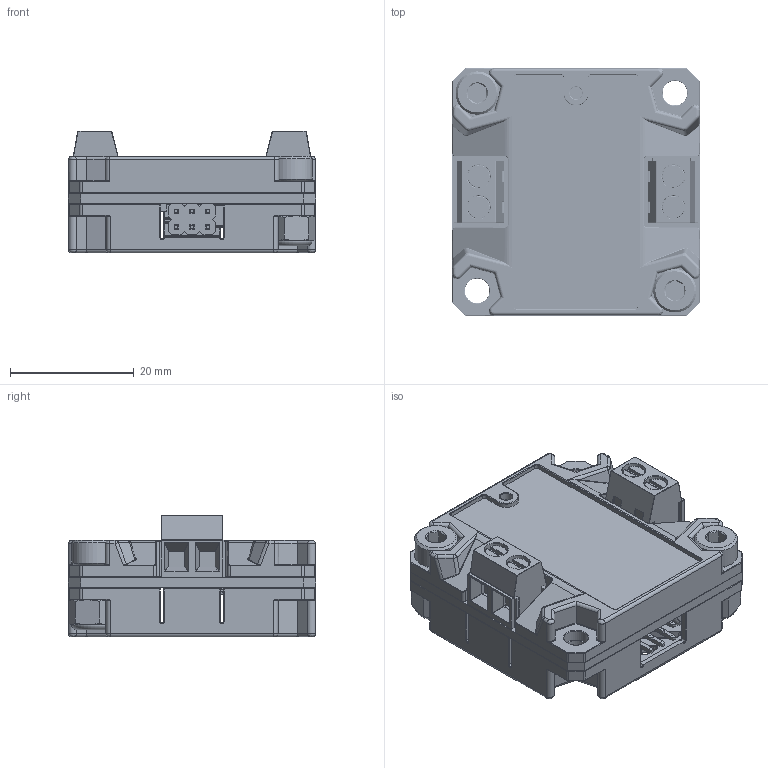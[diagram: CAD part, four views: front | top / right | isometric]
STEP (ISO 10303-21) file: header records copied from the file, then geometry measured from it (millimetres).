
FILE_DESCRIPTION(/* description */ (''),/* implementation_level */ '2;1');
FILE_NAME(/* name */ 'R:/Shared/Solidworks Files/(2) goBILDA/31 Electronics/3119 BECs/In Warehouse/STEP Files/3119-4444-0004 Assembly.step',/* time_stamp */ '2022-08-09T15:25:05-05:00',/* author */ (''),/* organization */ (''),/* preprocessor_version */ 'ST-DEVELOPER v19',/* originating_system */ 'Autodesk Translation Framework v11.7.0.108',/* authorisation */ '');
FILE_SCHEMA (('AUTOMOTIVE_DESIGN { 1 0 10303 214 3 1 1 }'));
Products named in the file (36): (Unsaved); 3119-4444-0004; Board; Packages; 0603LED; 0603C; 0603 CAP v1; 0603R; User Library-R0603 v1; 0805C; User Library-Chip Cap_MLCC_0805 (2012)_D v1; C+5MMÃTH-RA-B; User Library-Cap-EL(5x11-2)T Right Angle v2; L10X11; User Library-SMPI1004HW (1) v1; SMAF; SMFA v1; SOD-323; User Library-SOD323-1 v1; 2PIN-5MM-TH; 2pin screw terminal v2; 2PIN-5MM-TH (1); 2pin screw terminal v2 (1); Body; 2X03*90; 2x3x2.54mm Pin Head Right Angle v4; SOIC8; Model; DFN3X3; User Library-DFN_3x3_8L_EP2_P v1; lead frame; body_1; 3117-0032-0013; 3117-0032-0003; 2800-0004-0010; 2812-0004-0007
Assembly tree (51 placements, depth 6):
  (Unsaved)
    3119-4444-0004
      Board
      Packages
        0603LED
        0603C  x2
          0603 CAP v1
        0603R  x8
          User Library-R0603 v1
        0805C  x5
          User Library-Chip Cap_MLCC_0805 (2012)_D v1
        C+5MMÃTH-RA-B
          User Library-Cap-EL(5x11-2)T Right Angle v2
        L10X11
          User Library-SMPI1004HW (1) v1
        SMAF
          SMFA v1
        SOD-323  x2
          User Library-SOD323-1 v1
        2PIN-5MM-TH
          2pin screw terminal v2
            Body
        2PIN-5MM-TH (1)
          2pin screw terminal v2 (1)
            Body
        2X03*90
          2x3x2.54mm Pin Head Right Angle v4
        SOIC8
          Model
        DFN3X3
          User Library-DFN_3x3_8L_EP2_P v1
            lead frame
            body_1
    3117-0032-0013
    3117-0032-0003
    2800-0004-0010  x2
    2812-0004-0007  x2
Bounding box: 40 x 40.01 x 19.7 mm (x, y, z)
Volume: 11924.3 mm3; surface area: 18107.1 mm2
Topology: 75 solids, 76 shells, 4876 faces, 12051 edges, 7407 vertices
Faces by surface type: plane 2215, cylinder 1560, torus 468, bspline 451, sphere 120, cone 62
Full cylindrical faces by diameter (mm): 0.2 x101, 0.35 x32, 0.4 x1, 0.5 x4, 0.7 x2, 0.95 x6, 1 x4, 1.7 x4, 1.75 x4, 2 x1, 3.091 x26, 3.3 x8, 3.359 x2, 3.4 x2, 3.6 x4, 3.8 x4, 4 x48, 4.371 x2, 5 x1, 7 x2
Entity records: 135026 total; most frequent: CARTESIAN_POINT 41401, DIRECTION 19206, ORIENTED_EDGE 19000, EDGE_CURVE 9500, AXIS2_PLACEMENT_3D 6878, VERTEX_POINT 5902, LINE 5450, VECTOR 5450
